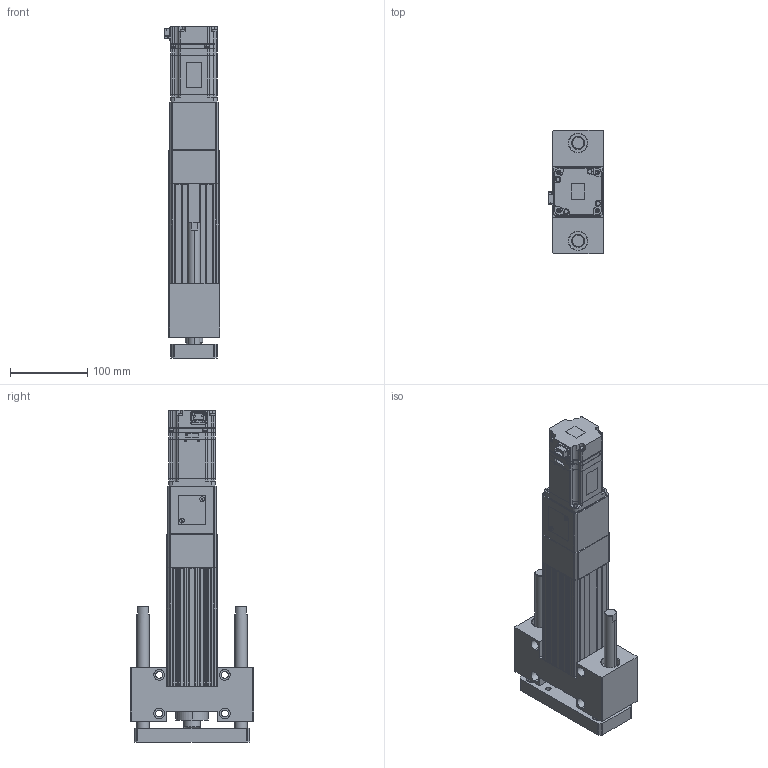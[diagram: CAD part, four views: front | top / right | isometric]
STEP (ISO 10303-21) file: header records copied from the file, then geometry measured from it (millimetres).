
FILE_DESCRIPTION (( 'STEP AP203' ), '1' );
FILE_NAME ('ANS065R-HS050-05(10)(20)-W40.STEP', '2019-03-01T09:06:09', ( 'user' ), ( '' ), 'SwSTEP 2.0', 'SolidWorks 2013', '' );
FILE_SCHEMA (( 'CONFIG_CONTROL_DESIGN' ));
Length unit declared in the file: millimetre
Products named in the file (4): ANS065R-HS050-05(10)(20)-W40; ANS065R HS050 VER2; ANS065 ROD ST050 G; sgmjv_04a_a21
Assembly tree (3 placements, depth 2):
  ANS065R-HS050-05(10)(20)-W40
    ANS065R HS050 VER2
    ANS065 ROD ST050 G
    sgmjv_04a_a21
Bounding box: 72.3 x 160 x 430.6 mm (x, y, z)
Volume: 1692660 mm3; surface area: 307914.5 mm2
Topology: 3 solids, 7 shells, 1236 faces, 3237 edges, 2087 vertices
Faces by surface type: plane 696, cylinder 430, cone 110
Entity records: 38235 total; most frequent: CARTESIAN_POINT 6780, DIRECTION 6559, ORIENTED_EDGE 6418, EDGE_CURVE 3209, VECTOR 2199, LINE 2199, AXIS2_PLACEMENT_3D 2180, VERTEX_POINT 2087
